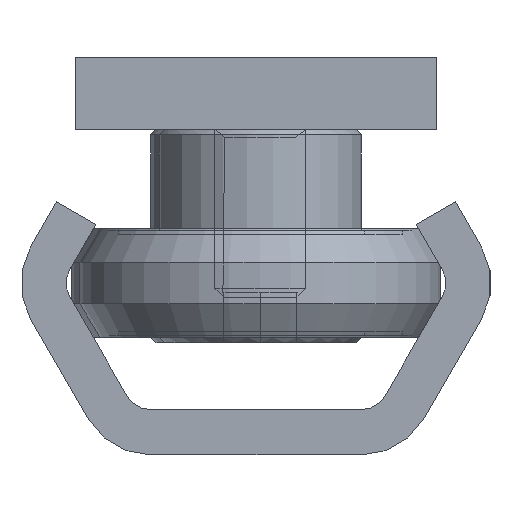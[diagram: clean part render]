
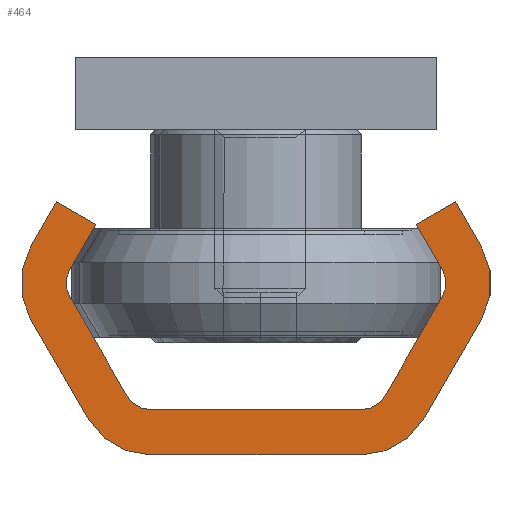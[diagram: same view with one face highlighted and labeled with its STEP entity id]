
A CAD part, left-side view. The second image highlights one B-rep face of the part: STEP entity #464.
In plain terms, the highlighted planar face has unit normal (-1, 0, 0).
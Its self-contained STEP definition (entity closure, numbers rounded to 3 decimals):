
#464 = ADVANCED_FACE( '', ( #1014 ), #1015, .F. );
#1014 = FACE_OUTER_BOUND( '', #1894, .T. );
#1015 = PLANE( '', #1895 );
#1894 = EDGE_LOOP( '', ( #3053, #3054, #3055, #3056, #3057, #3058, #3059, #3060, #3061, #3062, #3063, #3064, #3065, #3066, #3067, #3068, #3069, #3070, #3071, #3072 ) );
#1895 = AXIS2_PLACEMENT_3D( '', #3073, #3074, #3075 );
#3053 = ORIENTED_EDGE( '', *, *, #4321, .F. );
#3054 = ORIENTED_EDGE( '', *, *, #4191, .F. );
#3055 = ORIENTED_EDGE( '', *, *, #4322, .F. );
#3056 = ORIENTED_EDGE( '', *, *, #4323, .F. );
#3057 = ORIENTED_EDGE( '', *, *, #4324, .F. );
#3058 = ORIENTED_EDGE( '', *, *, #4249, .F. );
#3059 = ORIENTED_EDGE( '', *, *, #4325, .F. );
#3060 = ORIENTED_EDGE( '', *, *, #4326, .T. );
#3061 = ORIENTED_EDGE( '', *, *, #4327, .F. );
#3062 = ORIENTED_EDGE( '', *, *, #4313, .T. );
#3063 = ORIENTED_EDGE( '', *, *, #4328, .F. );
#3064 = ORIENTED_EDGE( '', *, *, #4284, .T. );
#3065 = ORIENTED_EDGE( '', *, *, #4329, .F. );
#3066 = ORIENTED_EDGE( '', *, *, #4226, .T. );
#3067 = ORIENTED_EDGE( '', *, *, #4245, .F. );
#3068 = ORIENTED_EDGE( '', *, *, #4125, .F. );
#3069 = ORIENTED_EDGE( '', *, *, #4211, .F. );
#3070 = ORIENTED_EDGE( '', *, *, #4330, .F. );
#3071 = ORIENTED_EDGE( '', *, *, #4331, .F. );
#3072 = ORIENTED_EDGE( '', *, *, #4231, .F. );
#3073 = CARTESIAN_POINT( '', ( 0., -5.825, -4. ) );
#3074 = DIRECTION( '', ( 1., 0., 0. ) );
#3075 = DIRECTION( '', ( 0., 0., -1. ) );
#4125 = EDGE_CURVE( '', #4716, #4717, #4718, .T. );
#4191 = EDGE_CURVE( '', #4825, #4826, #4827, .T. );
#4211 = EDGE_CURVE( '', #4860, #4716, #4861, .T. );
#4226 = EDGE_CURVE( '', #4884, #4885, #4886, .T. );
#4231 = EDGE_CURVE( '', #4893, #4894, #4895, .T. );
#4245 = EDGE_CURVE( '', #4717, #4885, #4917, .T. );
#4249 = EDGE_CURVE( '', #4921, #4922, #4923, .T. );
#4284 = EDGE_CURVE( '', #4975, #4976, #4977, .T. );
#4313 = EDGE_CURVE( '', #5023, #5024, #5025, .T. );
#4321 = EDGE_CURVE( '', #4826, #4893, #5037, .T. );
#4322 = EDGE_CURVE( '', #5038, #4825, #5039, .T. );
#4323 = EDGE_CURVE( '', #5040, #5038, #5041, .T. );
#4324 = EDGE_CURVE( '', #4922, #5040, #5042, .T. );
#4325 = EDGE_CURVE( '', #5043, #4921, #5044, .T. );
#4326 = EDGE_CURVE( '', #5043, #5045, #5046, .T. );
#4327 = EDGE_CURVE( '', #5023, #5045, #5047, .T. );
#4328 = EDGE_CURVE( '', #4975, #5024, #5048, .T. );
#4329 = EDGE_CURVE( '', #4884, #4976, #5049, .T. );
#4330 = EDGE_CURVE( '', #5050, #4860, #5051, .T. );
#4331 = EDGE_CURVE( '', #4894, #5050, #5052, .T. );
#4716 = VERTEX_POINT( '', #5567 );
#4717 = VERTEX_POINT( '', #5568 );
#4718 = LINE( '', #5569, #5570 );
#4825 = VERTEX_POINT( '', #5684 );
#4826 = VERTEX_POINT( '', #5685 );
#4827 = CIRCLE( '', #5686, 4. );
#4860 = VERTEX_POINT( '', #5727 );
#4861 = LINE( '', #5728, #5729 );
#4884 = VERTEX_POINT( '', #5756 );
#4885 = VERTEX_POINT( '', #5757 );
#4886 = CIRCLE( '', #5758, 1.5 );
#4893 = VERTEX_POINT( '', #5767 );
#4894 = VERTEX_POINT( '', #5768 );
#4895 = CIRCLE( '', #5769, 4. );
#4917 = LINE( '', #5793, #5794 );
#4921 = VERTEX_POINT( '', #5799 );
#4922 = VERTEX_POINT( '', #5800 );
#4923 = LINE( '', #5801, #5802 );
#4975 = VERTEX_POINT( '', #5868 );
#4976 = VERTEX_POINT( '', #5869 );
#4977 = CIRCLE( '', #5870, 1.5 );
#5023 = VERTEX_POINT( '', #5923 );
#5024 = VERTEX_POINT( '', #5924 );
#5025 = CIRCLE( '', #5925, 1.5 );
#5037 = LINE( '', #5939, #5940 );
#5038 = VERTEX_POINT( '', #5941 );
#5039 = LINE( '', #5942, #5943 );
#5040 = VERTEX_POINT( '', #5944 );
#5041 = CIRCLE( '', #5945, 4. );
#5042 = LINE( '', #5946, #5947 );
#5043 = VERTEX_POINT( '', #5948 );
#5044 = LINE( '', #5949, #5950 );
#5045 = VERTEX_POINT( '', #5951 );
#5046 = CIRCLE( '', #5952, 1.5 );
#5047 = LINE( '', #5953, #5954 );
#5048 = LINE( '', #5955, #5956 );
#5049 = LINE( '', #5957, #5958 );
#5050 = VERTEX_POINT( '', #5959 );
#5051 = CIRCLE( '', #5960, 4. );
#5052 = LINE( '', #5961, #5962 );
#5567 = CARTESIAN_POINT( '', ( 0., -11.021, -14. ) );
#5568 = CARTESIAN_POINT( '', ( 0., -8.856, -12.75 ) );
#5569 = CARTESIAN_POINT( '', ( 0., -11.021, -14. ) );
#5570 = VECTOR( '', #6503, 1000. );
#5684 = CARTESIAN_POINT( '', ( 0., 9.289, -2. ) );
#5685 = CARTESIAN_POINT( '', ( 0., 5.825, 0. ) );
#5686 = AXIS2_PLACEMENT_3D( '', #6637, #6638, #6639 );
#5727 = CARTESIAN_POINT( '', ( 0., -12.464, -11.5 ) );
#5728 = CARTESIAN_POINT( '', ( 0., -12.464, -11.5 ) );
#5729 = VECTOR( '', #6666, 1000. );
#5756 = CARTESIAN_POINT( '', ( 0., -10.299, -8.75 ) );
#5757 = CARTESIAN_POINT( '', ( 0., -10.299, -10.25 ) );
#5758 = AXIS2_PLACEMENT_3D( '', #6686, #6687, #6688 );
#5767 = CARTESIAN_POINT( '', ( 0., -5.825, 0. ) );
#5768 = CARTESIAN_POINT( '', ( 0., -9.289, -2. ) );
#5769 = AXIS2_PLACEMENT_3D( '', #6694, #6695, #6696 );
#5793 = CARTESIAN_POINT( '', ( 0., -8.856, -12.75 ) );
#5794 = VECTOR( '', #6720, 1000. );
#5799 = CARTESIAN_POINT( '', ( 0., 8.856, -12.75 ) );
#5800 = CARTESIAN_POINT( '', ( 0., 11.021, -14. ) );
#5801 = CARTESIAN_POINT( '', ( 0., 8.856, -12.75 ) );
#5802 = VECTOR( '', #6722, 1000. );
#5868 = CARTESIAN_POINT( '', ( 0., -5.825, -2.5 ) );
#5869 = CARTESIAN_POINT( '', ( 0., -7.124, -3.25 ) );
#5870 = AXIS2_PLACEMENT_3D( '', #6767, #6768, #6769 );
#5923 = CARTESIAN_POINT( '', ( 0., 7.124, -3.25 ) );
#5924 = CARTESIAN_POINT( '', ( 0., 5.825, -2.5 ) );
#5925 = AXIS2_PLACEMENT_3D( '', #6813, #6814, #6815 );
#5939 = CARTESIAN_POINT( '', ( 0., 5.825, 0. ) );
#5940 = VECTOR( '', #6827, 1000. );
#5941 = CARTESIAN_POINT( '', ( 0., 12.464, -7.5 ) );
#5942 = CARTESIAN_POINT( '', ( 0., 12.464, -7.5 ) );
#5943 = VECTOR( '', #6828, 1000. );
#5944 = CARTESIAN_POINT( '', ( 0., 12.464, -11.5 ) );
#5945 = AXIS2_PLACEMENT_3D( '', #6829, #6830, #6831 );
#5946 = CARTESIAN_POINT( '', ( 0., 11.021, -14. ) );
#5947 = VECTOR( '', #6832, 1000. );
#5948 = CARTESIAN_POINT( '', ( 0., 10.299, -10.25 ) );
#5949 = CARTESIAN_POINT( '', ( 0., 10.299, -10.25 ) );
#5950 = VECTOR( '', #6833, 1000. );
#5951 = CARTESIAN_POINT( '', ( 0., 10.299, -8.75 ) );
#5952 = AXIS2_PLACEMENT_3D( '', #6834, #6835, #6836 );
#5953 = CARTESIAN_POINT( '', ( 0., 7.124, -3.25 ) );
#5954 = VECTOR( '', #6837, 1000. );
#5955 = CARTESIAN_POINT( '', ( 0., -5.825, -2.5 ) );
#5956 = VECTOR( '', #6838, 1000. );
#5957 = CARTESIAN_POINT( '', ( 0., -10.299, -8.75 ) );
#5958 = VECTOR( '', #6839, 1000. );
#5959 = CARTESIAN_POINT( '', ( 0., -12.464, -7.5 ) );
#5960 = AXIS2_PLACEMENT_3D( '', #6840, #6841, #6842 );
#5961 = CARTESIAN_POINT( '', ( 0., -9.289, -2. ) );
#5962 = VECTOR( '', #6843, 1000. );
#6503 = DIRECTION( '', ( 0., 0.866, 0.5 ) );
#6637 = CARTESIAN_POINT( '', ( 0., 5.825, -4. ) );
#6638 = DIRECTION( '', ( 1., 0., 0. ) );
#6639 = DIRECTION( '', ( 0., 0., -1. ) );
#6666 = DIRECTION( '', ( 0., 0.5, -0.866 ) );
#6686 = CARTESIAN_POINT( '', ( 0., -9., -9.5 ) );
#6687 = DIRECTION( '', ( 1., 0., 0. ) );
#6688 = DIRECTION( '', ( 0., 0., -1. ) );
#6694 = CARTESIAN_POINT( '', ( 0., -5.825, -4. ) );
#6695 = DIRECTION( '', ( 1., 0., 0. ) );
#6696 = DIRECTION( '', ( 0., 0., -1. ) );
#6720 = DIRECTION( '', ( 0., -0.5, 0.866 ) );
#6722 = DIRECTION( '', ( 0., 0.866, -0.5 ) );
#6767 = CARTESIAN_POINT( '', ( 0., -5.825, -4. ) );
#6768 = DIRECTION( '', ( 1., 0., 0. ) );
#6769 = DIRECTION( '', ( 0., 0., -1. ) );
#6813 = CARTESIAN_POINT( '', ( 0., 5.825, -4. ) );
#6814 = DIRECTION( '', ( 1., 0., 0. ) );
#6815 = DIRECTION( '', ( 0., 0., -1. ) );
#6827 = DIRECTION( '', ( 0., -1., 0. ) );
#6828 = DIRECTION( '', ( 0., -0.5, 0.866 ) );
#6829 = CARTESIAN_POINT( '', ( 0., 9., -9.5 ) );
#6830 = DIRECTION( '', ( 1., 0., 0. ) );
#6831 = DIRECTION( '', ( 0., 0., -1. ) );
#6832 = DIRECTION( '', ( 0., 0.5, 0.866 ) );
#6833 = DIRECTION( '', ( 0., -0.5, -0.866 ) );
#6834 = CARTESIAN_POINT( '', ( 0., 9., -9.5 ) );
#6835 = DIRECTION( '', ( 1., 0., 0. ) );
#6836 = DIRECTION( '', ( 0., 0., -1. ) );
#6837 = DIRECTION( '', ( 0., 0.5, -0.866 ) );
#6838 = DIRECTION( '', ( 0., 1., 0. ) );
#6839 = DIRECTION( '', ( 0., 0.5, 0.866 ) );
#6840 = CARTESIAN_POINT( '', ( 0., -9., -9.5 ) );
#6841 = DIRECTION( '', ( 1., 0., 0. ) );
#6842 = DIRECTION( '', ( 0., 0., -1. ) );
#6843 = DIRECTION( '', ( 0., -0.5, -0.866 ) );
